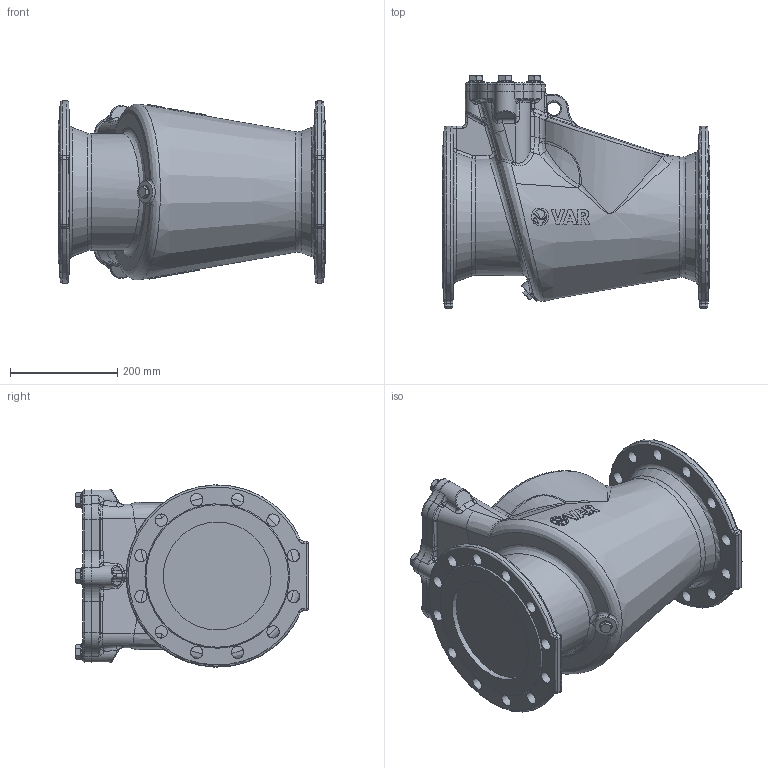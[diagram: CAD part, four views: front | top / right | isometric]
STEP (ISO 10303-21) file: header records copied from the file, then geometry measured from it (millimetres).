
FILE_DESCRIPTION(('STEP AP242'), '1');
FILE_NAME('VAR RETO-STOP 吾疣蝽 觌囡囗 DN 200 PN 16', '2026-06-28T08:25:28', (' '), (' '), 'C3D Converter', 'C3D Toolkit', '');
FILE_SCHEMA(('AP242_MANAGED_MODEL_BASED_3D_ENGINEERING_MIM_LF { 1 0 10303 442 1 1 4 }'));
Length unit declared in the file: millimetre
Products named in the file (1): Admi10D408D9fewg
Bounding box: 500 x 434 x 339.98 mm (x, y, z)
Volume: 32970137.1 mm3; surface area: 885838.8 mm2
Topology: 1 solids, 5 shells, 813 faces, 2045 edges, 1250 vertices
Faces by surface type: plane 203, bspline 184, extrusion 150, cylinder 138, cone 82, torus 38, sphere 18
Full cylindrical faces by diameter (mm): 15.053 x4, 17 x4, 17.2 x1, 22 x5, 23 x24, 24 x1, 30 x4, 32.521 x1, 201 x2
Entity records: 83962 total; most frequent: CARTESIAN_POINT 61195, ORIENTED_EDGE 3846, DIRECTION 2450, EDGE_CURVE 1923, VERTEX_POINT 1223, B_SPLINE_CURVE_WITH_KNOTS 1140, EDGE_LOOP 972, AXIS2_PLACEMENT_3D 898
